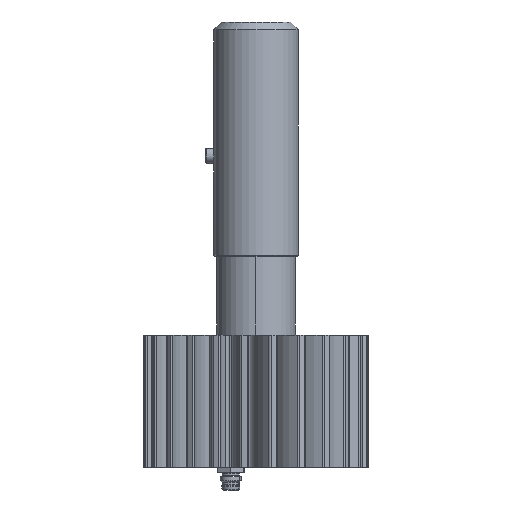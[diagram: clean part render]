
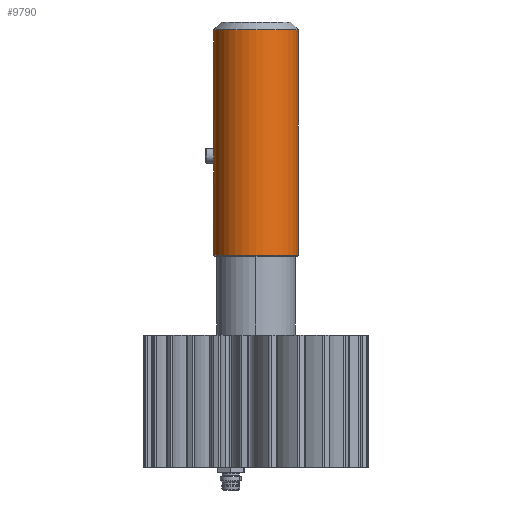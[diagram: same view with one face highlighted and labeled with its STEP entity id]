
A CAD part, front view. The second image highlights one B-rep face of the part: STEP entity #9790.
In plain terms, the highlighted cylindrical face has radius 16 mm (diameter 32 mm), a partial arc.
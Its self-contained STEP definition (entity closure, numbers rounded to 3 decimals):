
#181 = CARTESIAN_POINT ( 'NONE',  ( 0., 14.9, 30.2 ) ) ;
#395 = CARTESIAN_POINT ( 'NONE',  ( 16., 14.9, 115.2 ) ) ;
#611 = CARTESIAN_POINT ( 'NONE',  ( -15.921, 13.31, 67.491 ) ) ;
#657 = CARTESIAN_POINT ( 'NONE',  ( 16., 14.9, 30.2 ) ) ;
#691 = CARTESIAN_POINT ( 'NONE',  ( -15.981, 14.095, 69.099 ) ) ;
#780 = CARTESIAN_POINT ( 'NONE',  ( -15.949, 13.628, 68.676 ) ) ;
#850 = CARTESIAN_POINT ( 'NONE',  ( -16., 14.688, 66.1 ) ) ;
#924 = CARTESIAN_POINT ( 'NONE',  ( -16., 14.9, 66.1 ) ) ;
#1239 = CARTESIAN_POINT ( 'NONE',  ( 16., 14.9, 134.741 ) ) ;
#1411 = VERTEX_POINT ( 'NONE', #3616 ) ;
#1451 = CIRCLE ( 'NONE', #2676, 16. ) ;
#1460 = DIRECTION ( 'NONE',  ( 0., 0., 1. ) ) ;
#1648 = CYLINDRICAL_SURFACE ( 'NONE', #7127, 16. ) ;
#1787 = CARTESIAN_POINT ( 'NONE',  ( -15.92, 13.3, 67.596 ) ) ;
#1854 = CARTESIAN_POINT ( 'NONE',  ( -15.996, 14.481, 69.258 ) ) ;
#1998 = EDGE_CURVE ( 'NONE', #3246, #3817, #6945, .T. ) ;
#2305 = ORIENTED_EDGE ( 'NONE', *, *, #11907, .T. ) ;
#2317 = CARTESIAN_POINT ( 'NONE',  ( 0., 14.9, 134.741 ) ) ;
#2561 = CIRCLE ( 'NONE', #4793, 16. ) ;
#2676 = AXIS2_PLACEMENT_3D ( 'NONE', #12434, #10241, #15034 ) ;
#3082 = CARTESIAN_POINT ( 'NONE',  ( -16., 14.691, 69.3 ) ) ;
#3143 = VERTEX_POINT ( 'NONE', #4620 ) ;
#3150 = CARTESIAN_POINT ( 'NONE',  ( -15.996, 14.478, 66.143 ) ) ;
#3229 = LINE ( 'NONE', #12747, #6105 ) ;
#3245 = CARTESIAN_POINT ( 'NONE',  ( -15.92, 13.3, 67.807 ) ) ;
#3246 = VERTEX_POINT ( 'NONE', #657 ) ;
#3616 = CARTESIAN_POINT ( 'NONE',  ( -16., 14.9, 66.1 ) ) ;
#3653 = DIRECTION ( 'NONE',  ( -1., 0., 0. ) ) ;
#3783 = ORIENTED_EDGE ( 'NONE', *, *, #14485, .F. ) ;
#3817 = VERTEX_POINT ( 'NONE', #395 ) ;
#4620 = CARTESIAN_POINT ( 'NONE',  ( -16., 14.9, 69.3 ) ) ;
#4793 = AXIS2_PLACEMENT_3D ( 'NONE', #181, #11689, #3653 ) ;
#5112 = ORIENTED_EDGE ( 'NONE', *, *, #1998, .T. ) ;
#5235 = CARTESIAN_POINT ( 'NONE',  ( -16., 14.9, 134.741 ) ) ;
#5316 = CARTESIAN_POINT ( 'NONE',  ( -15.925, 13.351, 67.287 ) ) ;
#5479 = CARTESIAN_POINT ( 'NONE',  ( -15.935, 13.463, 68.411 ) ) ;
#5481 = VERTEX_POINT ( 'NONE', #7032 ) ;
#5614 = CARTESIAN_POINT ( 'NONE',  ( -15.928, 13.382, 68.217 ) ) ;
#6105 = VECTOR ( 'NONE', #8936, 1000. ) ;
#6466 = CARTESIAN_POINT ( 'NONE',  ( -15.921, 13.311, 67.911 ) ) ;
#6620 = CARTESIAN_POINT ( 'NONE',  ( -15.94, 13.512, 68.502 ) ) ;
#6700 = CARTESIAN_POINT ( 'NONE',  ( -15.925, 13.351, 68.115 ) ) ;
#6945 = LINE ( 'NONE', #1239, #12644 ) ;
#7012 = CARTESIAN_POINT ( 'NONE',  ( -16., 14.9, 115.2 ) ) ;
#7032 = CARTESIAN_POINT ( 'NONE',  ( -16., 14.9, 30.2 ) ) ;
#7127 = AXIS2_PLACEMENT_3D ( 'NONE', #2317, #8053, #12701 ) ;
#7235 = EDGE_CURVE ( 'NONE', #5481, #3246, #2561, .T. ) ;
#7720 = CARTESIAN_POINT ( 'NONE',  ( -16., 14.9, 69.3 ) ) ;
#7803 = CARTESIAN_POINT ( 'NONE',  ( -15.955, 13.696, 68.758 ) ) ;
#8053 = DIRECTION ( 'NONE',  ( 0., 0., 1. ) ) ;
#8104 = VECTOR ( 'NONE', #1460, 1000. ) ;
#8459 = EDGE_CURVE ( 'NONE', #3143, #1411, #11972, .T. ) ;
#8703 = LINE ( 'NONE', #5235, #8104 ) ;
#8936 = DIRECTION ( 'NONE',  ( 0., 0., 1. ) ) ;
#9790 = ADVANCED_FACE ( 'NONE', ( #14768 ), #1648, .T. ) ;
#10027 = CARTESIAN_POINT ( 'NONE',  ( -15.935, 13.462, 66.991 ) ) ;
#10110 = CARTESIAN_POINT ( 'NONE',  ( -15.94, 13.511, 66.899 ) ) ;
#10184 = CARTESIAN_POINT ( 'NONE',  ( -15.928, 13.381, 67.185 ) ) ;
#10241 = DIRECTION ( 'NONE',  ( 0., 0., -1. ) ) ;
#10570 = DIRECTION ( 'NONE',  ( 0., 0., 1. ) ) ;
#10909 = VERTEX_POINT ( 'NONE', #7012 ) ;
#11192 = CARTESIAN_POINT ( 'NONE',  ( -15.97, 13.917, 68.98 ) ) ;
#11689 = DIRECTION ( 'NONE',  ( 0., 0., 1. ) ) ;
#11791 = EDGE_CURVE ( 'NONE', #3143, #10909, #3229, .T. ) ;
#11907 = EDGE_CURVE ( 'NONE', #3817, #10909, #1451, .T. ) ;
#11972 = B_SPLINE_CURVE_WITH_KNOTS ( 'NONE', 3,
 ( #7720, #3082, #1854, #691, #11192, #7803, #780, #6620, #5479, #5614, #6700, #6466, #3245, #1787, #611, #5316, #10184, #10027, #10110, #13645, #14916, #12521, #13786, #3150, #850, #924 ),
 .UNSPECIFIED., .F., .F.,
 ( 4, 2, 2, 2, 2, 2, 2, 2, 2, 2, 2, 2, 4 ),
 ( 0.005, 0.006, 0.006, 0.007, 0.007, 0.007, 0.008, 0.008, 0.008, 0.008, 0.009, 0.009, 0.01 ),
 .UNSPECIFIED. ) ;
#12434 = CARTESIAN_POINT ( 'NONE',  ( 0., 14.9, 115.2 ) ) ;
#12521 = CARTESIAN_POINT ( 'NONE',  ( -15.97, 13.915, 66.422 ) ) ;
#12644 = VECTOR ( 'NONE', #10570, 1000. ) ;
#12701 = DIRECTION ( 'NONE',  ( -1., 0., 0. ) ) ;
#12747 = CARTESIAN_POINT ( 'NONE',  ( -16., 14.9, 134.741 ) ) ;
#13246 = ORIENTED_EDGE ( 'NONE', *, *, #11791, .F. ) ;
#13645 = CARTESIAN_POINT ( 'NONE',  ( -15.949, 13.627, 66.726 ) ) ;
#13786 = CARTESIAN_POINT ( 'NONE',  ( -15.981, 14.094, 66.303 ) ) ;
#13951 = EDGE_LOOP ( 'NONE', ( #14001, #5112, #2305, #13246, #15206, #3783 ) ) ;
#14001 = ORIENTED_EDGE ( 'NONE', *, *, #7235, .T. ) ;
#14485 = EDGE_CURVE ( 'NONE', #5481, #1411, #8703, .T. ) ;
#14768 = FACE_OUTER_BOUND ( 'NONE', #13951, .T. ) ;
#14916 = CARTESIAN_POINT ( 'NONE',  ( -15.955, 13.694, 66.643 ) ) ;
#15034 = DIRECTION ( 'NONE',  ( 1., 0., 0. ) ) ;
#15206 = ORIENTED_EDGE ( 'NONE', *, *, #8459, .T. ) ;
